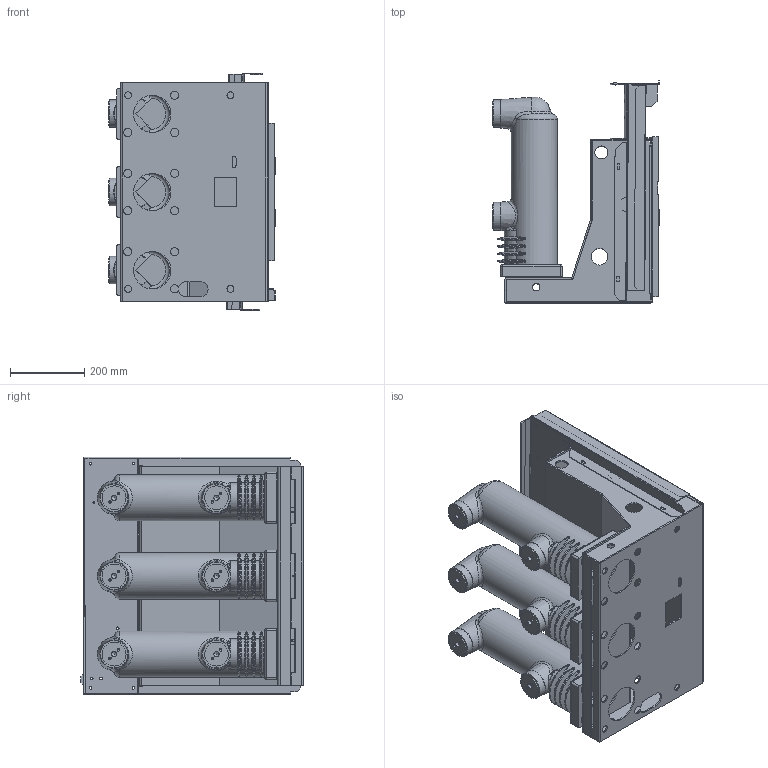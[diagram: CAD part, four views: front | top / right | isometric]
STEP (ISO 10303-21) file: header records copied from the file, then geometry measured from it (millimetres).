
FILE_DESCRIPTION(('STEP AP242'), '1');
FILE_NAME('OptiMat BB-10-20 (50)630(1600)-2-FX-2_闷仁.674152.008', '2023-05-11T10:42:48', (''), (''), 'C3D Converter', 'C3D Toolkit', '');
FILE_SCHEMA(('AP242_MANAGED_MODEL_BASED_3D_ENGINEERING_MIM_LF { 1 0 10303 442 1 1 4 }'));
Length unit declared in the file: millimetre
Products named in the file (1): OptiMat BB-10-20 (50)630(1600)-2-FX-2_ГЖИК.674152.008
Bounding box: 447.64 x 597.5 x 638.7 mm (x, y, z)
Volume: 22605639.4 mm3; surface area: 3805619.6 mm2
Topology: 1 solids, 1 shells, 1195 faces, 3179 edges, 1952 vertices
Faces by surface type: plane 455, cylinder 314, bspline 174, torus 125, cone 105, sphere 22
Full cylindrical faces by diameter (mm): 3 x8, 4.2 x2, 5 x2, 6.2 x2, 6.8 x12, 7 x10, 14 x6, 15.956 x1, 18.5 x4, 20 x3, 22 x9, 22.126 x1, 24 x12, 30 x3, 32 x1, 35 x2, 36 x3, 45 x2, 64 x6, 74 x6, 100 x6, 104 x3, 124 x3
Entity records: 74329 total; most frequent: CARTESIAN_POINT 37411, ORIENTED_EDGE 5930, DIRECTION 5102, EDGE_CURVE 2965, VERTEX_POINT 1927, AXIS2_PLACEMENT_3D 1893, EDGE_LOOP 1504, FACE_BOUND 1328
